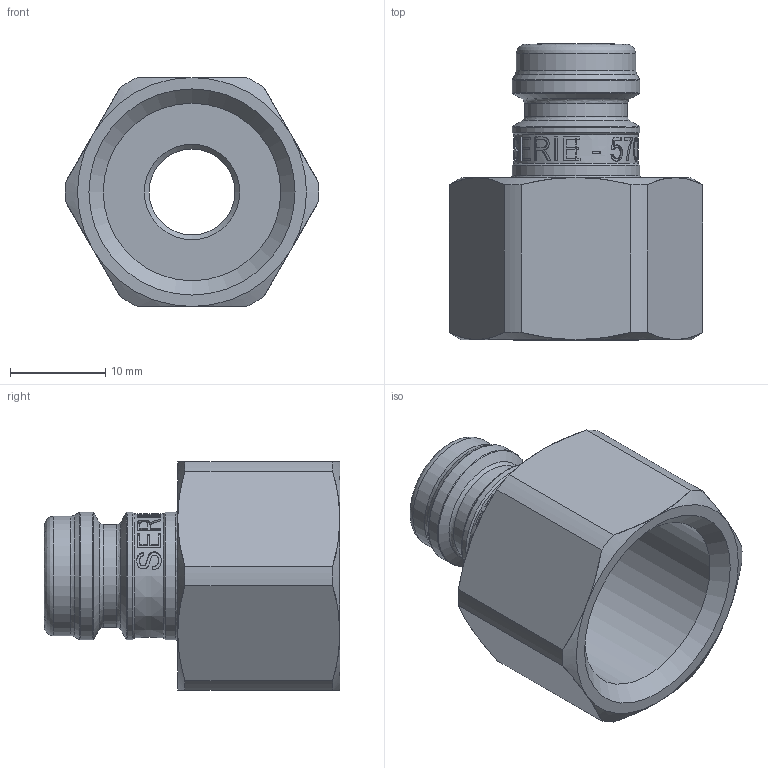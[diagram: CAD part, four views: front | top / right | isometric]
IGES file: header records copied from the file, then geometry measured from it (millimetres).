
Start section: SolidWorks IGES file using analytic representation for surfaces
Global section: file name: K:\Disegni Esecutivi\SERIE 400-500\ASSIEMI\p\0057200010500A.IGS; native system: SolidWorks 2012; preprocessor: SolidWorks 2012; author: cad05; date: 130731.150223; units: millimetre
Bounding box: 26.59 x 31 x 24 mm (x, y, z)
Surface area: 4069.4 mm2 (no closed solid volume)
Topology: 0 solids, 0 shells, 169 faces, 886 edges, 860 vertices
Faces by surface type: bspline 111, revolution 58
